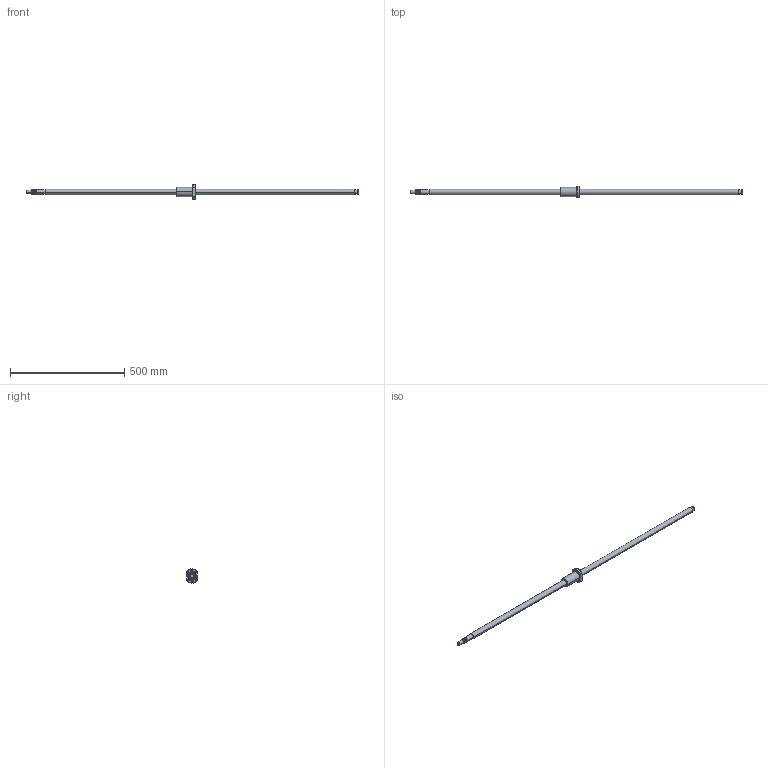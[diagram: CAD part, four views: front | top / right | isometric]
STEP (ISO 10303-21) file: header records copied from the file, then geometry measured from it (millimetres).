
FILE_DESCRIPTION (( 'STEP AP214' ), '1' );
FILE_NAME ('2.2116 SFU2510-1450mm.STEP', '2025-09-19T08:04:10', ( '' ), ( '' ), 'SwSTEP 2.0', 'SolidWorks 2025', '' );
FILE_SCHEMA (( 'AUTOMOTIVE_DESIGN' ));
Length unit declared in the file: millimetre
Products named in the file (3): 2.2116 SFU2510-1450mm; 2.3017 Kuularuuvimutteri SFU2510-4
Assembly tree (2 placements, depth 2):
  2.2116 SFU2510-1450mm
    2.2116 SFU2510-1450mm
    2.3017 Kuularuuvimutteri SFU2510-4
Bounding box: 1450 x 50.47 x 61.99 mm (x, y, z)
Volume: 758854.4 mm3; surface area: 138055.3 mm2
Topology: 3 solids, 3 shells, 121 faces, 306 edges, 200 vertices
Faces by surface type: cylinder 81, plane 22, cone 9, bspline 9
Entity records: 7331 total; most frequent: CARTESIAN_POINT 4437, ORIENTED_EDGE 612, DIRECTION 531, EDGE_CURVE 306, AXIS2_PLACEMENT_3D 210, VERTEX_POINT 200, EDGE_LOOP 146, FACE_OUTER_BOUND 121
